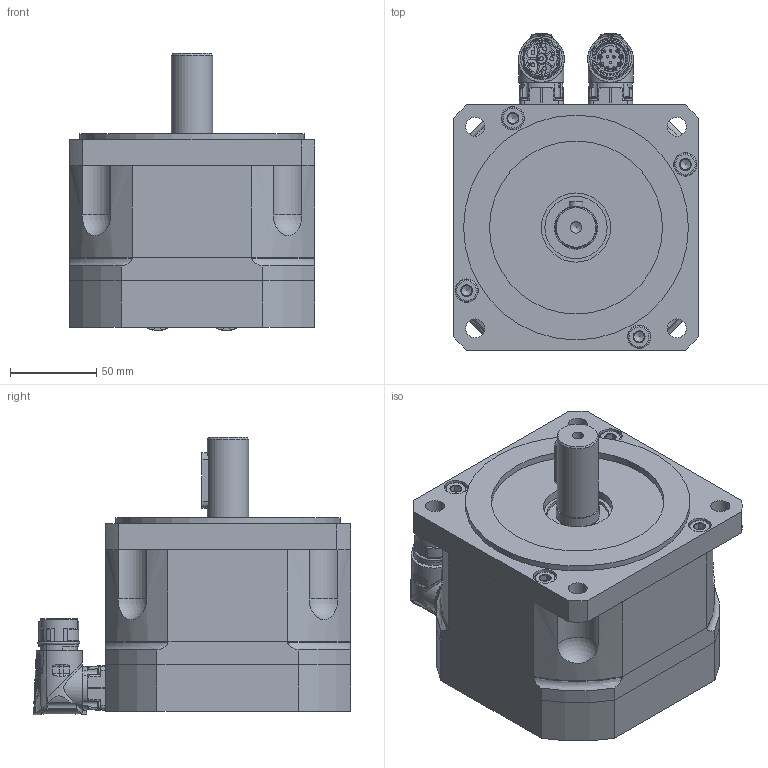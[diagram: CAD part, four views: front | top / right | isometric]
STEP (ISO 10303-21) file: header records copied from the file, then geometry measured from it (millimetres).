
FILE_DESCRIPTION(/* description */ (''),/* implementation_level */ '2;1');
FILE_NAME(/* name */ 'C:\Users\Public\Documents\Autodesk\Inventor LT 2014\Workspace\Motori Sito WEB\TG_COMPATTI\STEP_COMPATTI\DSM5_50_x097.stp',/* time_stamp */ '2021-03-31T14:51:10+02:00',/* author */ ('marcor'),/* organization */ (''),/* preprocessor_version */ 'ST-DEVELOPER v15.2',/* originating_system */ 'Autodesk Inventor LT ',/* authorisation */ '');
FILE_SCHEMA (('AUTOMOTIVE_DESIGN { 1 0 10303 214 3 1 1 }'));
Products named in the file (1): DSM5_50_x097
Bounding box: 142 x 183.5 x 160.41 mm (x, y, z)
Volume: 2068439.3 mm3; surface area: 255025.2 mm2
Topology: 16 solids, 26 shells, 1486 faces, 3887 edges, 2589 vertices
Faces by surface type: plane 523, cylinder 436, cone 307, bspline 113, torus 75, sphere 32
Full cylindrical faces by diameter (mm): 1.2 x12, 2.224 x8, 2.233 x6, 2.5 x8, 2.88 x8, 3.26 x8, 4.5 x2, 4.8 x8, 4.917 x4, 5.5 x3, 5.9 x2, 6 x4, 6.5 x4, 6.647 x9, 8 x8, 8.5 x8, 10 x4, 11 x8, 13 x8, 13.5 x8, 15.2 x1, 17.4 x3, 18 x1, 19.8 x1, 21.15 x4, 21.6 x1, 21.653 x2, 23.8 x1, 24 x1, 24.3 x2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
Entity records: 52854 total; most frequent: CARTESIAN_POINT 17970, ORIENTED_EDGE 6934, DIRECTION 6463, EDGE_CURVE 3467, AXIS2_PLACEMENT_3D 2616, VERTEX_POINT 2481, EDGE_LOOP 1992, ADVANCED_FACE 1486
